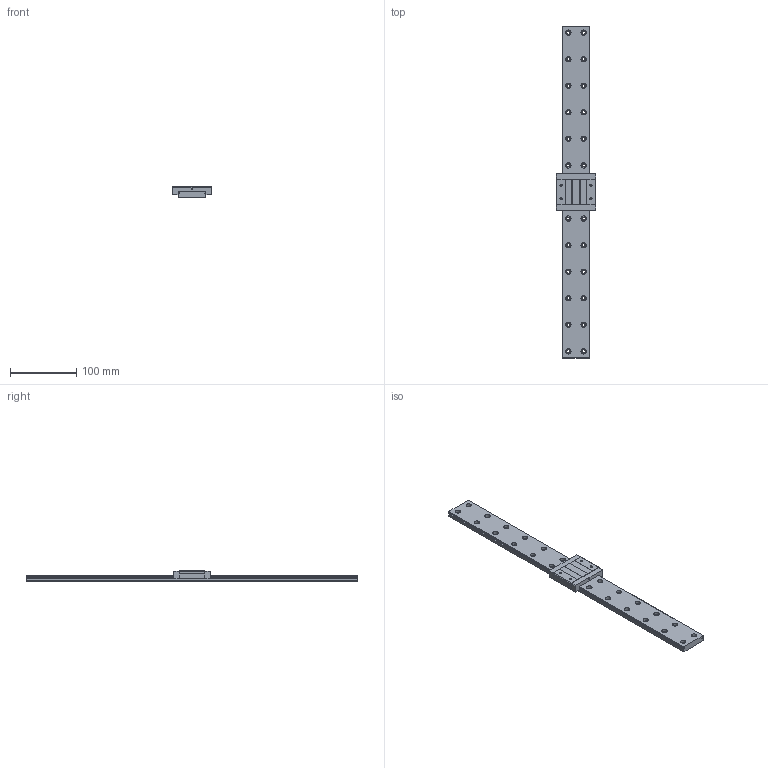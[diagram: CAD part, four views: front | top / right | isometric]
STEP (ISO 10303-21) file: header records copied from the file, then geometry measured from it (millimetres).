
FILE_DESCRIPTION (( 'STEP AP203' ), '1' );
FILE_NAME ('TM15WN.STEP', '2023-10-03T03:25:07', ( '' ), ( '' ), 'SwSTEP 2.0', 'SolidWorks 2022', '' );
FILE_SCHEMA (( 'CONFIG_CONTROL_DESIGN' ));
Length unit declared in the file: millimetre
Products named in the file (1): TM15WN
Bounding box: 60 x 500 x 16 mm (x, y, z)
Volume: 213885 mm3; surface area: 69582.2 mm2
Topology: 2 solids, 2 shells, 248 faces, 636 edges, 416 vertices
Faces by surface type: cylinder 148, plane 92, cone 8
Entity records: 7763 total; most frequent: DIRECTION 1422, CARTESIAN_POINT 1293, ORIENTED_EDGE 1256, EDGE_CURVE 628, AXIS2_PLACEMENT_3D 545, VERTEX_POINT 416, VECTOR 332, EDGE_LOOP 332
